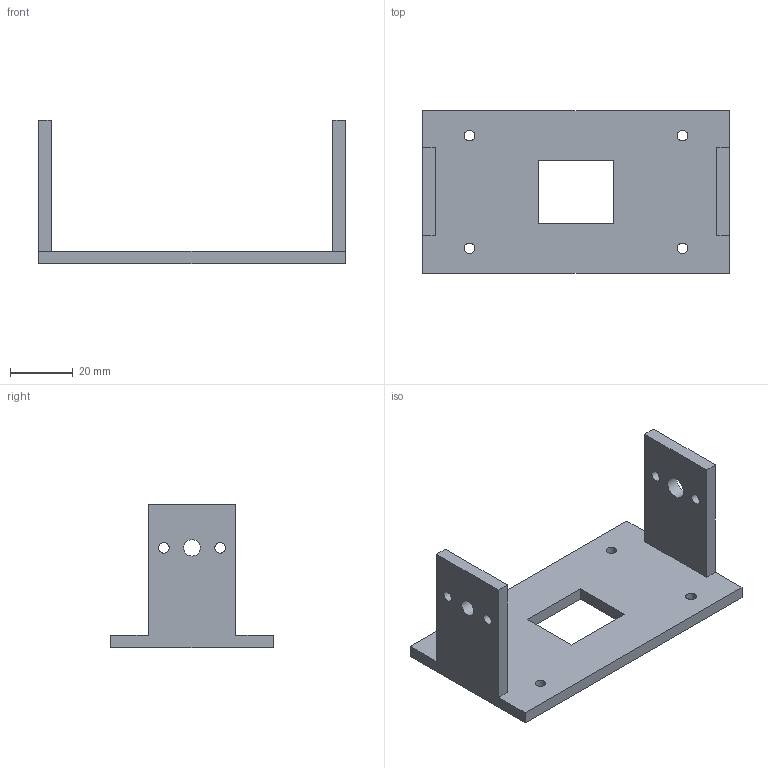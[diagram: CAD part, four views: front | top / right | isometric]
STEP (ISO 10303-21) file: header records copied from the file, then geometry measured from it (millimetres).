
FILE_DESCRIPTION(('FreeCAD Model'),'2;1');
FILE_NAME('Open CASCADE Shape Model','2026-11-07T00:59:45',('FreeCAD'),( 'FreeCAD'),'Open CASCADE STEP processor 7.8','FreeCAD','Unknown');
FILE_SCHEMA(('AUTOMOTIVE_DESIGN { 1 0 10303 214 1 1 1 1 }'));
Length unit declared in the file: millimetre
Products named in the file (1): Open CASCADE STEP translator 7.8 7
Bounding box: 98 x 52 x 46 mm (x, y, z)
Volume: 27339.3 mm3; surface area: 16390 mm2
Topology: 1 solids, 1 shells, 28 faces, 78 edges, 52 vertices
Faces by surface type: plane 18, cylinder 10
Full cylindrical faces by diameter (mm): 3.4 x8, 5.3 x1, 7 x1
Entity records: 956 total; most frequent: CARTESIAN_POINT 159, DIRECTION 156, ORIENTED_EDGE 156, EDGE_CURVE 78, LINE 58, VECTOR 58, VERTEX_POINT 52, FACE_BOUND 50
